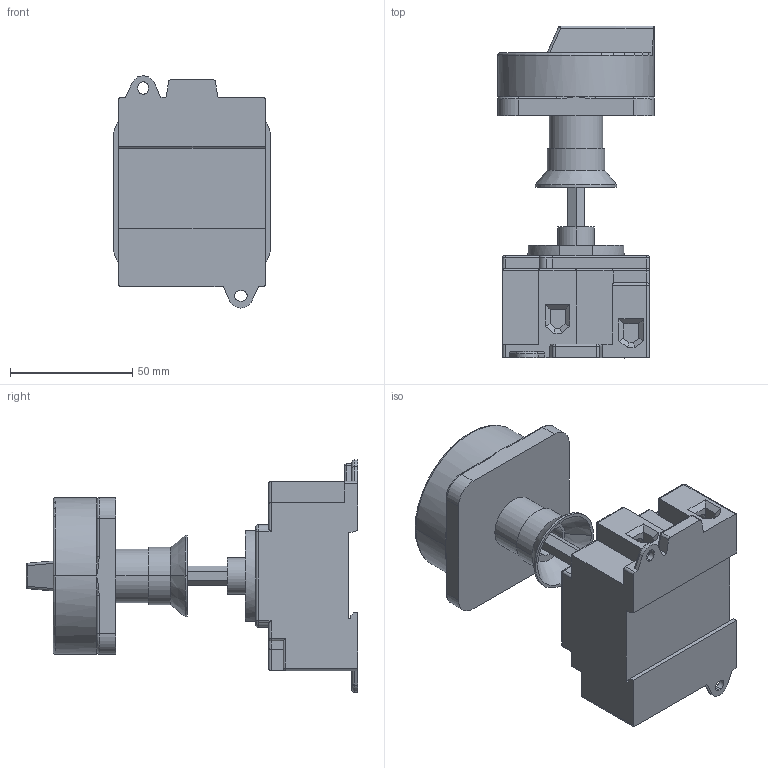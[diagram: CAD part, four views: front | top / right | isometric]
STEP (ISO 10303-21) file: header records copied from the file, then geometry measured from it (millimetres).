
FILE_DESCRIPTION (( 'STEP AP203' ), '1' );
FILE_NAME ('LS32 VZVH4 A2-X95.STEP', '2014-03-18T10:15:20', ( 'edv' ), ( '' ), 'SwSTEP 2.0', 'SolidWorks 2014', '' );
FILE_SCHEMA (( 'CONFIG_CONTROL_DESIGN' ));
Length unit declared in the file: millimetre
Products named in the file (3): Dummie Schalterkörper VZV A2; Dummie Griff SV4 TKZ; LS32 VZVH4 A2-X95
Assembly tree (2 placements, depth 2):
  LS32 VZVH4 A2-X95
    Dummie Schalterkörper VZV A2
    Dummie Griff SV4 TKZ
Bounding box: 64 x 135.7 x 94.98 mm (x, y, z)
Volume: 239355.7 mm3; surface area: 49666.8 mm2
Topology: 2 solids, 3 shells, 326 faces, 817 edges, 485 vertices
Faces by surface type: plane 168, cylinder 111, sphere 14, torus 14, bspline 10, cone 9
Entity records: 10126 total; most frequent: CARTESIAN_POINT 2210, DIRECTION 1599, ORIENTED_EDGE 1594, EDGE_CURVE 797, AXIS2_PLACEMENT_3D 550, LINE 499, VECTOR 499, VERTEX_POINT 485
